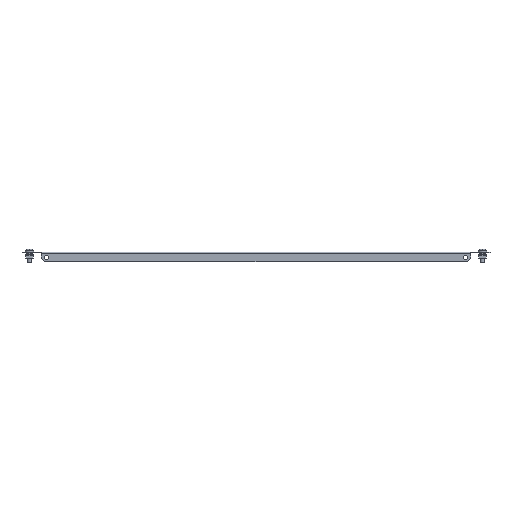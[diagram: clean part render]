
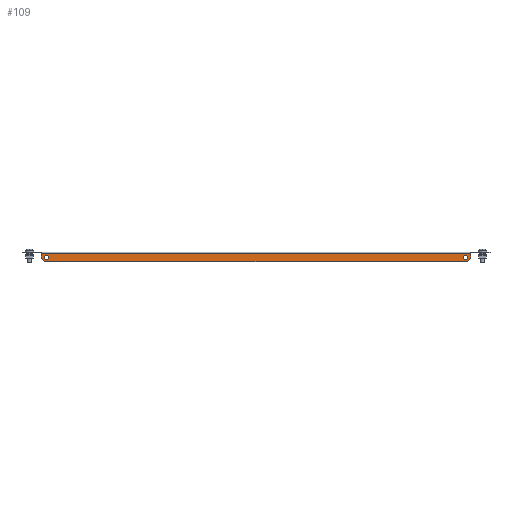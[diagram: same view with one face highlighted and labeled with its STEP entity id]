
A CAD part, front view. The second image highlights one B-rep face of the part: STEP entity #109.
In plain terms, the highlighted planar face has unit normal (0, -1, 0).
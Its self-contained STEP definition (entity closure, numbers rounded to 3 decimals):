
#4 = DIRECTION ( 'NONE',  ( 0., 1., 0. ) ) ;
#6 = EDGE_CURVE ( 'NONE', #4902, #1151, #3179, .T. ) ;
#109 = ADVANCED_FACE ( 'NONE', ( #1132, #7394, #5705 ), #6864, .T. ) ;
#358 = ORIENTED_EDGE ( 'NONE', *, *, #3841, .T. ) ;
#397 = DIRECTION ( 'NONE',  ( 0., 0., 1. ) ) ;
#463 = DIRECTION ( 'NONE',  ( 0., -1., 0. ) ) ;
#508 = CARTESIAN_POINT ( 'NONE',  ( 310., -99.5, -14. ) ) ;
#915 = LINE ( 'NONE', #6730, #5608 ) ;
#999 = CARTESIAN_POINT ( 'NONE',  ( 0., -99.5, -2. ) ) ;
#1014 = CARTESIAN_POINT ( 'NONE',  ( -307., -99.5, -8. ) ) ;
#1048 = AXIS2_PLACEMENT_3D ( 'NONE', #7511, #5629, #397 ) ;
#1132 = FACE_BOUND ( 'NONE', #3546, .T. ) ;
#1151 = VERTEX_POINT ( 'NONE', #508 ) ;
#1205 = ORIENTED_EDGE ( 'NONE', *, *, #4234, .T. ) ;
#1258 = DIRECTION ( 'NONE',  ( 0.707, 0., 0.707 ) ) ;
#1337 = VECTOR ( 'NONE', #7377, 1000. ) ;
#1558 = CARTESIAN_POINT ( 'NONE',  ( -315., -99.5, -9. ) ) ;
#1577 = EDGE_CURVE ( 'NONE', #4162, #3817, #3912, .T. ) ;
#1741 = VERTEX_POINT ( 'NONE', #5569 ) ;
#1856 = ORIENTED_EDGE ( 'NONE', *, *, #1577, .T. ) ;
#2085 = VECTOR ( 'NONE', #4453, 1000. ) ;
#2232 = ORIENTED_EDGE ( 'NONE', *, *, #2557, .T. ) ;
#2285 = EDGE_LOOP ( 'NONE', ( #358 ) ) ;
#2300 = LINE ( 'NONE', #2374, #6677 ) ;
#2374 = CARTESIAN_POINT ( 'NONE',  ( 315., -99.5, 0. ) ) ;
#2406 = EDGE_CURVE ( 'NONE', #4372, #4372, #7534, .T. ) ;
#2435 = AXIS2_PLACEMENT_3D ( 'NONE', #1014, #4, #5210 ) ;
#2557 = EDGE_CURVE ( 'NONE', #1741, #4162, #2300, .T. ) ;
#2627 = EDGE_CURVE ( 'NONE', #1151, #1741, #4067, .T. ) ;
#2716 = VERTEX_POINT ( 'NONE', #6687 ) ;
#3179 = LINE ( 'NONE', #6110, #2085 ) ;
#3406 = DIRECTION ( 'NONE',  ( 0., 0., 1. ) ) ;
#3546 = EDGE_LOOP ( 'NONE', ( #6115 ) ) ;
#3612 = CARTESIAN_POINT ( 'NONE',  ( -310., -99.5, -14. ) ) ;
#3757 = DIRECTION ( 'NONE',  ( 0., 0., -1. ) ) ;
#3817 = VERTEX_POINT ( 'NONE', #6860 ) ;
#3841 = EDGE_CURVE ( 'NONE', #2716, #2716, #4154, .T. ) ;
#3912 = LINE ( 'NONE', #999, #7283 ) ;
#4067 = LINE ( 'NONE', #4177, #6807 ) ;
#4118 = AXIS2_PLACEMENT_3D ( 'NONE', #7382, #463, #3406 ) ;
#4154 = CIRCLE ( 'NONE', #2435, 3.25 ) ;
#4162 = VERTEX_POINT ( 'NONE', #6302 ) ;
#4177 = CARTESIAN_POINT ( 'NONE',  ( 162., -99.5, -162. ) ) ;
#4234 = EDGE_CURVE ( 'NONE', #6856, #4902, #7414, .T. ) ;
#4372 = VERTEX_POINT ( 'NONE', #5016 ) ;
#4442 = ORIENTED_EDGE ( 'NONE', *, *, #6, .T. ) ;
#4453 = DIRECTION ( 'NONE',  ( 1., 0., 0. ) ) ;
#4504 = ORIENTED_EDGE ( 'NONE', *, *, #2627, .T. ) ;
#4902 = VERTEX_POINT ( 'NONE', #3612 ) ;
#5016 = CARTESIAN_POINT ( 'NONE',  ( 307., -99.5, -4.75 ) ) ;
#5210 = DIRECTION ( 'NONE',  ( 0., 0., 1. ) ) ;
#5260 = ORIENTED_EDGE ( 'NONE', *, *, #5902, .T. ) ;
#5569 = CARTESIAN_POINT ( 'NONE',  ( 315., -99.5, -9. ) ) ;
#5608 = VECTOR ( 'NONE', #3757, 1000. ) ;
#5629 = DIRECTION ( 'NONE',  ( 0., -1., 0. ) ) ;
#5650 = DIRECTION ( 'NONE',  ( -1., 0., 0. ) ) ;
#5705 = FACE_OUTER_BOUND ( 'NONE', #6690, .T. ) ;
#5902 = EDGE_CURVE ( 'NONE', #3817, #6856, #915, .T. ) ;
#6110 = CARTESIAN_POINT ( 'NONE',  ( 0., -99.5, -14. ) ) ;
#6115 = ORIENTED_EDGE ( 'NONE', *, *, #2406, .F. ) ;
#6266 = CARTESIAN_POINT ( 'NONE',  ( -162., -99.5, -162. ) ) ;
#6302 = CARTESIAN_POINT ( 'NONE',  ( 315., -99.5, -2. ) ) ;
#6677 = VECTOR ( 'NONE', #7033, 1000. ) ;
#6687 = CARTESIAN_POINT ( 'NONE',  ( -307., -99.5, -4.75 ) ) ;
#6690 = EDGE_LOOP ( 'NONE', ( #4442, #4504, #2232, #1856, #5260, #1205 ) ) ;
#6730 = CARTESIAN_POINT ( 'NONE',  ( -315., -99.5, 0. ) ) ;
#6807 = VECTOR ( 'NONE', #1258, 1000. ) ;
#6856 = VERTEX_POINT ( 'NONE', #1558 ) ;
#6860 = CARTESIAN_POINT ( 'NONE',  ( -315., -99.5, -2. ) ) ;
#6864 = PLANE ( 'NONE',  #1048 ) ;
#7033 = DIRECTION ( 'NONE',  ( 0., 0., 1. ) ) ;
#7283 = VECTOR ( 'NONE', #5650, 1000. ) ;
#7377 = DIRECTION ( 'NONE',  ( 0.707, 0., -0.707 ) ) ;
#7382 = CARTESIAN_POINT ( 'NONE',  ( 307., -99.5, -8. ) ) ;
#7394 = FACE_BOUND ( 'NONE', #2285, .T. ) ;
#7414 = LINE ( 'NONE', #6266, #1337 ) ;
#7511 = CARTESIAN_POINT ( 'NONE',  ( 0., -99.5, 0. ) ) ;
#7534 = CIRCLE ( 'NONE', #4118, 3.25 ) ;
